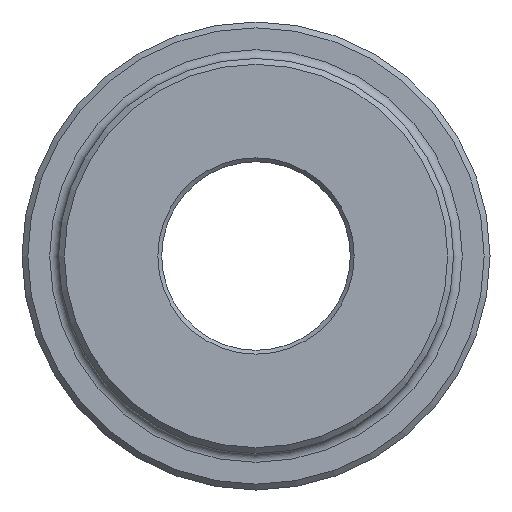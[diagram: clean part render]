
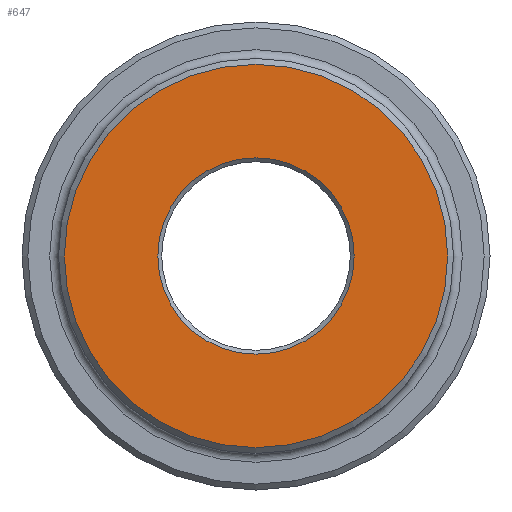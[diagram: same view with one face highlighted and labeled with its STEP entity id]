
A CAD part, left-side view. The second image highlights one B-rep face of the part: STEP entity #647.
In plain terms, the highlighted planar face has unit normal (-1, 0, 0).
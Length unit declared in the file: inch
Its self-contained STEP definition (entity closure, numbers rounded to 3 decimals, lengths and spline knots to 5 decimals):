
#11 = DIRECTION ( 'NONE',  ( 1., 0., 0. ) ) ;
#52 = EDGE_LOOP ( 'NONE', ( #2074 ) ) ;
#317 = CIRCLE ( 'NONE', #392, 1.97 ) ;
#392 = AXIS2_PLACEMENT_3D ( 'NONE', #1697, #1356, #750 ) ;
#446 = EDGE_CURVE ( 'NONE', #2281, #2281, #317, .T. ) ;
#512 = ORIENTED_EDGE ( 'NONE', *, *, #991, .T. ) ;
#536 = FACE_BOUND ( 'NONE', #728, .T. ) ;
#647 = ADVANCED_FACE ( 'NONE', ( #536, #2063 ), #2067, .F. ) ;
#717 = CARTESIAN_POINT ( 'NONE',  ( 0., 0., 0. ) ) ;
#728 = EDGE_LOOP ( 'NONE', ( #512 ) ) ;
#750 = DIRECTION ( 'NONE',  ( 0., 0., -1. ) ) ;
#985 = AXIS2_PLACEMENT_3D ( 'NONE', #1020, #11, #1624 ) ;
#991 = EDGE_CURVE ( 'NONE', #1276, #1276, #1115, .T. ) ;
#1020 = CARTESIAN_POINT ( 'NONE',  ( 0., 0., 0. ) ) ;
#1115 = CIRCLE ( 'NONE', #2168, 1.009 ) ;
#1156 = CARTESIAN_POINT ( 'NONE',  ( 0., 0., -1.009 ) ) ;
#1276 = VERTEX_POINT ( 'NONE', #1156 ) ;
#1356 = DIRECTION ( 'NONE',  ( -1., 0., 0. ) ) ;
#1624 = DIRECTION ( 'NONE',  ( 0., 0., -1. ) ) ;
#1697 = CARTESIAN_POINT ( 'NONE',  ( 0., 0., 0. ) ) ;
#1899 = CARTESIAN_POINT ( 'NONE',  ( 0., 0., -1.97 ) ) ;
#1910 = DIRECTION ( 'NONE',  ( 1., 0., 0. ) ) ;
#2063 = FACE_OUTER_BOUND ( 'NONE', #52, .T. ) ;
#2067 = PLANE ( 'NONE',  #985 ) ;
#2074 = ORIENTED_EDGE ( 'NONE', *, *, #446, .T. ) ;
#2168 = AXIS2_PLACEMENT_3D ( 'NONE', #717, #1910, #2221 ) ;
#2221 = DIRECTION ( 'NONE',  ( 0., 0., -1. ) ) ;
#2281 = VERTEX_POINT ( 'NONE', #1899 ) ;
